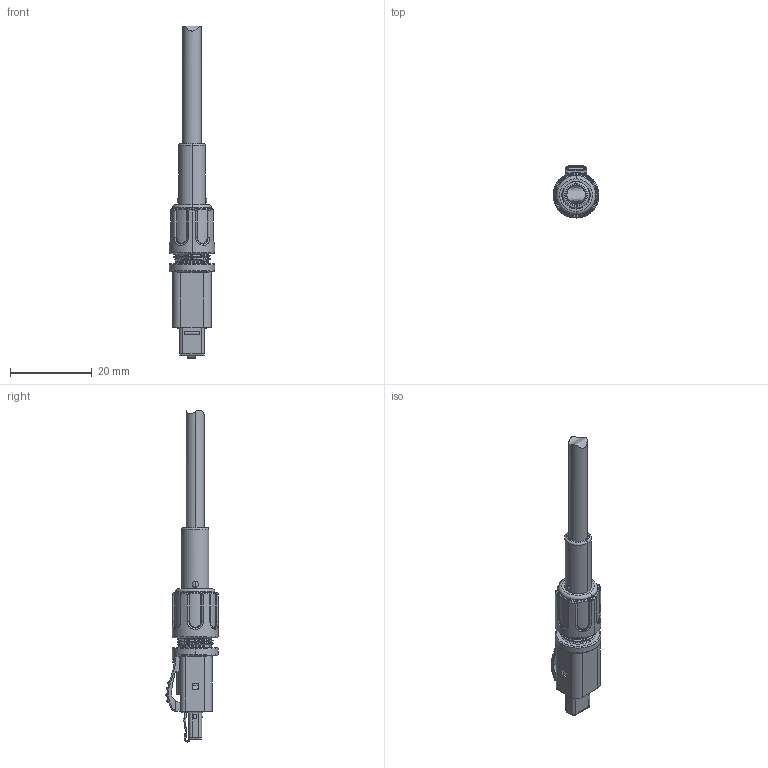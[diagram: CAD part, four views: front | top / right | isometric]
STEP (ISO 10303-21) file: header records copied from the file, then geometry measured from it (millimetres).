
FILE_DESCRIPTION((''),'2;1');
FILE_NAME('940000-00-468','2024-01-12T',('eng35'),(''),'PRO/ENGINEER BY PARAMETRIC TECHNOLOGY CORPORATION, 2009360','PRO/ENGINEER BY PARAMETRIC TECHNOLOGY CORPORATION, 2009360','');
FILE_SCHEMA(('AUTOMOTIVE_DESIGN_CC06 { 1 0 10303 214 -2 1 8 1 }'));
Products named in the file (1): 940000-00-468
Bounding box: 11.2 x 12.81 x 81.43 mm (x, y, z)
Volume: 1902.3 mm3; surface area: 6303.1 mm2
Topology: 4 solids, 9 shells, 2063 faces, 5346 edges, 3271 vertices
Faces by surface type: plane 996, cylinder 529, bspline 390, torus 68, cone 53, sphere 26, extrusion 1
Entity records: 104420 total; most frequent: CARTESIAN_POINT 42165, ORIENTED_EDGE 10680, DIRECTION 9024, EDGE_CURVE 5340, VERTEX_POINT 3271, VECTOR 3092, LINE 3091, AXIS2_PLACEMENT_3D 2966
